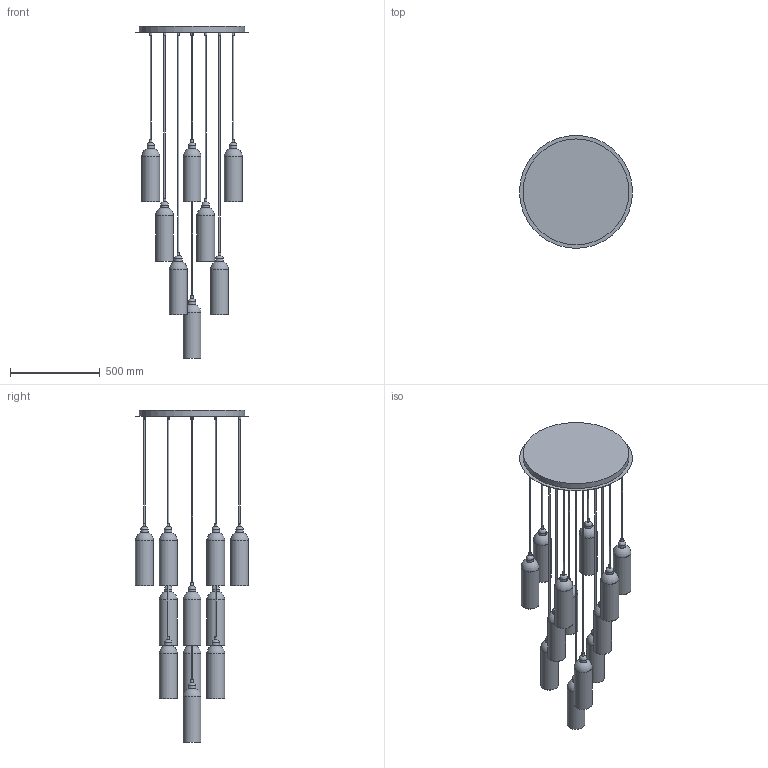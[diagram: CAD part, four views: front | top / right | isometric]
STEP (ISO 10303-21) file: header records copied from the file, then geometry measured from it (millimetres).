
FILE_DESCRIPTION(/* description */ (''),/* implementation_level */ '2;1');
FILE_NAME(/* name */ 'T:\B160 Odyssey Cluster 13\Pliki bryłowe handlowe\B160 Odyssey Cluster 13 3D files\B160 Odyssey Cluster 13.stp',/* time_stamp */ '2022-01-25T11:43:02+01:00',/* author */ ('Mariusz Awariusz'),/* organization */ (''),/* preprocessor_version */ 'ST-DEVELOPER v18.1',/* originating_system */ 'Autodesk Inventor 2022',/* authorisation */ '');
FILE_SCHEMA (('AUTOMOTIVE_DESIGN { 1 0 10303 214 3 1 1 }'));
Length unit declared in the file: millimetre
Products named in the file (1): B160 Odyssey Cluster 13 CE v5_na potrzeby plików 3D_2_jako część
Bounding box: 630 x 630.47 x 1851.05 mm (x, y, z)
Volume: 14311617.3 mm3; surface area: 3397396.4 mm2
Topology: 1 solids, 1 shells, 305 faces, 537 edges, 323 vertices
Faces by surface type: plane 101, cylinder 93, cone 72, sphere 26, bspline 13
Full cylindrical faces by diameter (mm): 7 x13, 13 x26, 30 x13, 42 x13, 94 x13, 100 x13, 590 x1, 630 x1
Entity records: 8030 total; most frequent: CARTESIAN_POINT 1854, DIRECTION 1465, ORIENTED_EDGE 1074, AXIS2_PLACEMENT_3D 655, EDGE_CURVE 537, EDGE_LOOP 394, CIRCLE 362, VERTEX_POINT 323
